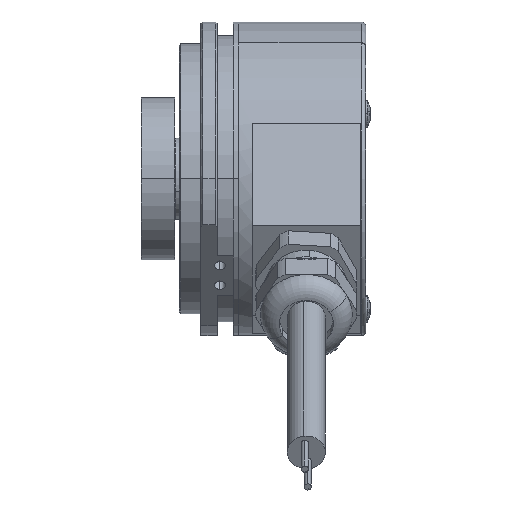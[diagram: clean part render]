
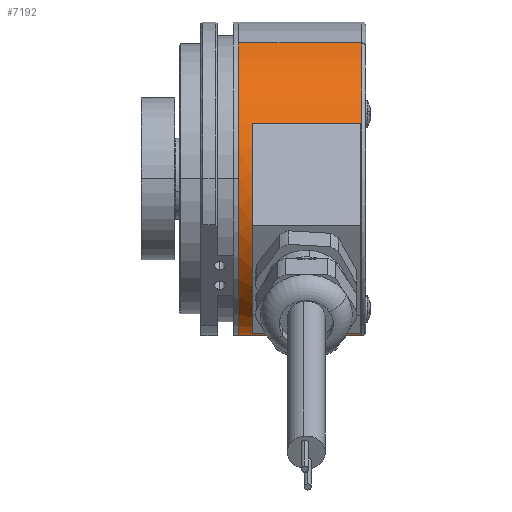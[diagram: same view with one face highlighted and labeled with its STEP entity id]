
A CAD part, top view. The second image highlights one B-rep face of the part: STEP entity #7192.
In plain terms, the highlighted cylindrical face has radius 29 mm (diameter 58 mm), a partial arc.
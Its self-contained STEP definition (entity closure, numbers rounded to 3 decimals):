
#553 = EDGE_LOOP ( 'NONE', ( #8797, #8798, #8799, #8800 ) ) ;
#992 = LINE ( 'NONE', #7660, #997 ) ;
#997 = VECTOR ( 'NONE', #7656, 1000. ) ;
#1576 = CARTESIAN_POINT ( 'NONE',  ( 11., 0., 0. ) ) ;
#1577 = DIRECTION ( 'NONE',  ( 1., 0., 0. ) ) ;
#1578 = DIRECTION ( 'NONE',  ( 0., -0.866, -0.5 ) ) ;
#2091 = CARTESIAN_POINT ( 'NONE',  ( 33.7, 0., 0. ) ) ;
#2754 = AXIS2_PLACEMENT_3D ( 'NONE', #2091, #6344, #6523 ) ;
#2776 = AXIS2_PLACEMENT_3D ( 'NONE', #1576, #1577, #1578 ) ;
#2808 = AXIS2_PLACEMENT_3D ( 'NONE', #12174, #12167, #12166 ) ;
#5075 = EDGE_CURVE ( 'NONE', #7971, #7983, #13380, .T. ) ;
#5170 = EDGE_CURVE ( 'NONE', #8146, #7949, #13957, .T. ) ;
#5192 = EDGE_CURVE ( 'NONE', #7949, #11813, #14009, .T. ) ;
#5318 = EDGE_CURVE ( 'NONE', #7975, #8146, #14194, .T. ) ;
#5450 = EDGE_CURVE ( 'NONE', #7974, #7983, #14498, .T. ) ;
#5680 = EDGE_CURVE ( 'NONE', #7940, #7971, #992, .T. ) ;
#6239 = EDGE_CURVE ( 'NONE', #7940, #7974, #6807, .T. ) ;
#6295 = EDGE_CURVE ( 'NONE', #7975, #11813, #6883, .T. ) ;
#6340 = DIRECTION ( 'NONE',  ( 1., 0., 0. ) ) ;
#6341 = CARTESIAN_POINT ( 'NONE',  ( 34.5, -25.115, -14.5 ) ) ;
#6344 = DIRECTION ( 'NONE',  ( -1., 0., 0. ) ) ;
#6523 = DIRECTION ( 'NONE',  ( 0., 0.866, 0.5 ) ) ;
#6807 = CIRCLE ( 'NONE', #12040, 29. ) ;
#6883 = LINE ( 'NONE', #10524, #6885 ) ;
#6885 = VECTOR ( 'NONE', #10526, 1000. ) ;
#6929 = FACE_OUTER_BOUND ( 'NONE', #10273, .T. ) ;
#6933 = FACE_BOUND ( 'NONE', #553, .T. ) ;
#6935 = CYLINDRICAL_SURFACE ( 'NONE', #12076, 29. ) ;
#7192 = ADVANCED_FACE ( 'NONE', ( #6929, #6933 ), #6935, .T. ) ;
#7656 = DIRECTION ( 'NONE',  ( 1., 0., 0. ) ) ;
#7660 = CARTESIAN_POINT ( 'NONE',  ( 13.5, -28.602, 4.786 ) ) ;
#7940 = VERTEX_POINT ( 'NONE', #9294 ) ;
#7949 = VERTEX_POINT ( 'NONE', #9303 ) ;
#7971 = VERTEX_POINT ( 'NONE', #9325 ) ;
#7974 = VERTEX_POINT ( 'NONE', #9328 ) ;
#7975 = VERTEX_POINT ( 'NONE', #9329 ) ;
#7983 = VERTEX_POINT ( 'NONE', #9337 ) ;
#8146 = VERTEX_POINT ( 'NONE', #9500 ) ;
#8793 = ORIENTED_EDGE ( 'NONE', *, *, #6295, .F. ) ;
#8794 = ORIENTED_EDGE ( 'NONE', *, *, #5318, .T. ) ;
#8795 = ORIENTED_EDGE ( 'NONE', *, *, #5170, .T. ) ;
#8796 = ORIENTED_EDGE ( 'NONE', *, *, #5192, .T. ) ;
#8797 = ORIENTED_EDGE ( 'NONE', *, *, #6239, .T. ) ;
#8798 = ORIENTED_EDGE ( 'NONE', *, *, #5450, .T. ) ;
#8799 = ORIENTED_EDGE ( 'NONE', *, *, #5075, .F. ) ;
#8800 = ORIENTED_EDGE ( 'NONE', *, *, #5680, .F. ) ;
#9294 = CARTESIAN_POINT ( 'NONE',  ( 13.5, -28.602, 4.786 ) ) ;
#9303 = CARTESIAN_POINT ( 'NONE',  ( 33.7, -25.115, -14.5 ) ) ;
#9325 = CARTESIAN_POINT ( 'NONE',  ( 33.5, -28.602, 4.786 ) ) ;
#9328 = CARTESIAN_POINT ( 'NONE',  ( 13.5, 10.156, 27.163 ) ) ;
#9329 = CARTESIAN_POINT ( 'NONE',  ( 11., 25.115, 14.5 ) ) ;
#9337 = CARTESIAN_POINT ( 'NONE',  ( 33.5, 10.156, 27.163 ) ) ;
#9500 = CARTESIAN_POINT ( 'NONE',  ( 11., -25.115, -14.5 ) ) ;
#9971 = CARTESIAN_POINT ( 'NONE',  ( 33.7, 25.115, 14.5 ) ) ;
#10273 = EDGE_LOOP ( 'NONE', ( #8793, #8794, #8795, #8796 ) ) ;
#10307 = CARTESIAN_POINT ( 'NONE',  ( 13.5, 0., 0. ) ) ;
#10308 = DIRECTION ( 'NONE',  ( -1., 0., 0. ) ) ;
#10310 = DIRECTION ( 'NONE',  ( 0., -0.866, -0.5 ) ) ;
#10524 = CARTESIAN_POINT ( 'NONE',  ( 34.5, 25.115, 14.5 ) ) ;
#10526 = DIRECTION ( 'NONE',  ( 1., 0., 0. ) ) ;
#10640 = DIRECTION ( 'NONE',  ( 0., -0.866, -0.5 ) ) ;
#10643 = CARTESIAN_POINT ( 'NONE',  ( 34.5, 0., 0. ) ) ;
#10645 = DIRECTION ( 'NONE',  ( 1., 0., 0. ) ) ;
#11813 = VERTEX_POINT ( 'NONE', #9971 ) ;
#12040 = AXIS2_PLACEMENT_3D ( 'NONE', #10307, #10308, #10310 ) ;
#12076 = AXIS2_PLACEMENT_3D ( 'NONE', #10643, #10645, #10640 ) ;
#12166 = DIRECTION ( 'NONE',  ( 0., -0.866, -0.5 ) ) ;
#12167 = DIRECTION ( 'NONE',  ( -1., 0., 0. ) ) ;
#12174 = CARTESIAN_POINT ( 'NONE',  ( 33.5, 0., 0. ) ) ;
#13380 = CIRCLE ( 'NONE', #2808, 29. ) ;
#13520 = CARTESIAN_POINT ( 'NONE',  ( 13.5, 10.156, 27.163 ) ) ;
#13541 = DIRECTION ( 'NONE',  ( 1., 0., 0. ) ) ;
#13957 = LINE ( 'NONE', #6341, #13966 ) ;
#13966 = VECTOR ( 'NONE', #6340, 1000. ) ;
#14009 = CIRCLE ( 'NONE', #2754, 29. ) ;
#14194 = CIRCLE ( 'NONE', #2776, 29. ) ;
#14498 = LINE ( 'NONE', #13520, #14504 ) ;
#14504 = VECTOR ( 'NONE', #13541, 1000. ) ;
